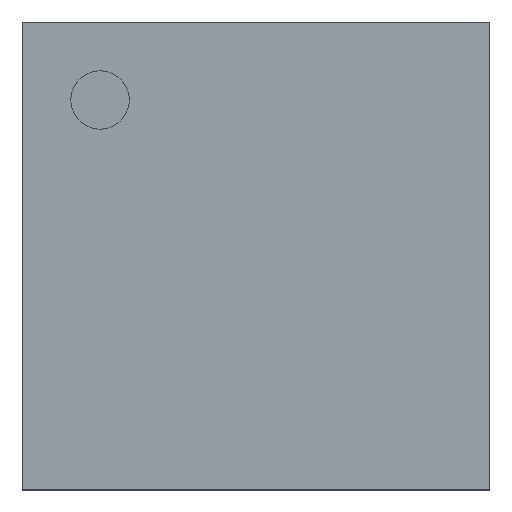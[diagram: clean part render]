
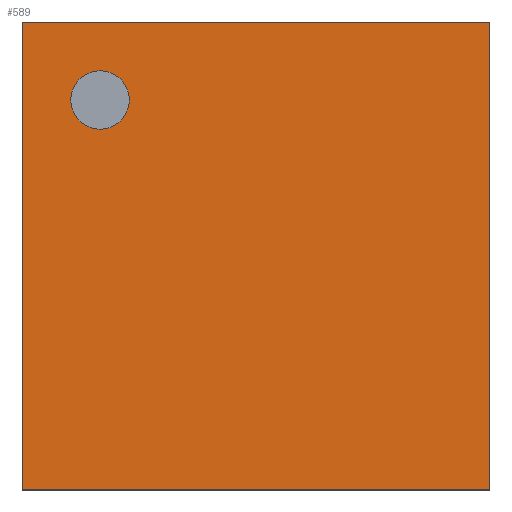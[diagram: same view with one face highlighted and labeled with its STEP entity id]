
A CAD part, top view. The second image highlights one B-rep face of the part: STEP entity #589.
In plain terms, the highlighted planar face has unit normal (0, 0, 1).
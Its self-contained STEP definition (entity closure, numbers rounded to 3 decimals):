
#525 = VERTEX_POINT('',#526);
#526 = CARTESIAN_POINT('',(0.,0.,1.171));
#541 = VERTEX_POINT('',#542);
#542 = CARTESIAN_POINT('',(0.,8.,1.171));
#548 = EDGE_CURVE('',#525,#541,#549,.T.);
#549 = LINE('',#550,#551);
#550 = CARTESIAN_POINT('',(0.,0.,1.171));
#551 = VECTOR('',#552,1.);
#552 = DIRECTION('',(-0.,1.,0.));
#571 = EDGE_CURVE('',#525,#572,#574,.T.);
#572 = VERTEX_POINT('',#573);
#573 = CARTESIAN_POINT('',(8.,0.,1.171));
#574 = LINE('',#575,#576);
#575 = CARTESIAN_POINT('',(0.,0.,1.171));
#576 = VECTOR('',#577,1.);
#577 = DIRECTION('',(1.,0.,-0.));
#589 = ADVANCED_FACE('',(#590,#608),#619,.T.);
#590 = FACE_BOUND('',#591,.T.);
#591 = EDGE_LOOP('',(#592,#593,#594,#602));
#592 = ORIENTED_EDGE('',*,*,#548,.F.);
#593 = ORIENTED_EDGE('',*,*,#571,.T.);
#594 = ORIENTED_EDGE('',*,*,#595,.T.);
#595 = EDGE_CURVE('',#572,#596,#598,.T.);
#596 = VERTEX_POINT('',#597);
#597 = CARTESIAN_POINT('',(8.,8.,1.171));
#598 = LINE('',#599,#600);
#599 = CARTESIAN_POINT('',(8.,0.,1.171));
#600 = VECTOR('',#601,1.);
#601 = DIRECTION('',(-0.,1.,0.));
#602 = ORIENTED_EDGE('',*,*,#603,.F.);
#603 = EDGE_CURVE('',#541,#596,#604,.T.);
#604 = LINE('',#605,#606);
#605 = CARTESIAN_POINT('',(0.,8.,1.171));
#606 = VECTOR('',#607,1.);
#607 = DIRECTION('',(1.,0.,-0.));
#608 = FACE_BOUND('',#609,.T.);
#609 = EDGE_LOOP('',(#610));
#610 = ORIENTED_EDGE('',*,*,#611,.F.);
#611 = EDGE_CURVE('',#612,#612,#614,.T.);
#612 = VERTEX_POINT('',#613);
#613 = CARTESIAN_POINT('',(1.833,6.667,1.171));
#614 = CIRCLE('',#615,0.5);
#615 = AXIS2_PLACEMENT_3D('',#616,#617,#618);
#616 = CARTESIAN_POINT('',(1.333,6.667,1.171));
#617 = DIRECTION('',(0.,0.,1.));
#618 = DIRECTION('',(1.,0.,-0.));
#619 = PLANE('',#620);
#620 = AXIS2_PLACEMENT_3D('',#621,#622,#623);
#621 = CARTESIAN_POINT('',(0.,0.,1.171));
#622 = DIRECTION('',(0.,0.,1.));
#623 = DIRECTION('',(1.,0.,-0.));
